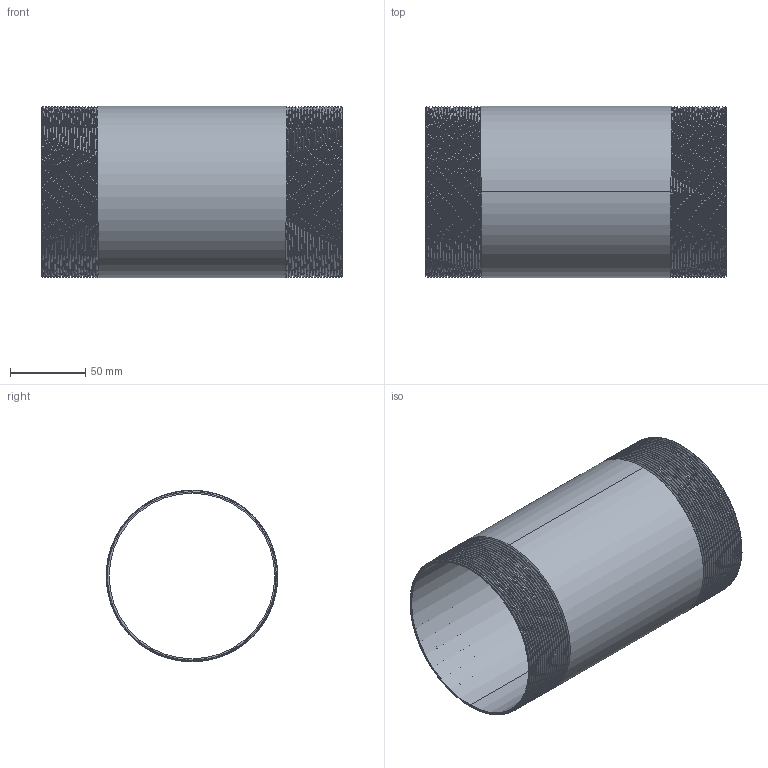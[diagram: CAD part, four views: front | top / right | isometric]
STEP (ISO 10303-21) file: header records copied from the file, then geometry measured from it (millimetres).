
FILE_DESCRIPTION (( 'STEP AP203' ), '1' );
FILE_NAME ('3D_R210_4x200_17148700.STEP', '2024-08-16T10:27:18', ( '' ), ( '' ), 'SwSTEP 2.0', 'SolidWorks 2024', '' );
FILE_SCHEMA (( 'CONFIG_CONTROL_DESIGN' ));
Length unit declared in the file: millimetre
Products named in the file (1): 3D_R210_4x200_17148700
Bounding box: 200 x 114.2 x 114.3 mm (x, y, z)
Volume: 124630.4 mm3; surface area: 156729.6 mm2
Topology: 1 solids, 1 shells, 92 faces, 264 edges, 174 vertices
Faces by surface type: cone 78, bspline 6, cylinder 4, plane 4
Entity records: 19785 total; most frequent: CARTESIAN_POINT 17647, ORIENTED_EDGE 528, DIRECTION 284, EDGE_CURVE 264, VERTEX_POINT 174, B_SPLINE_CURVE_WITH_KNOTS 158, AXIS2_PLACEMENT_3D 99, EDGE_LOOP 94
